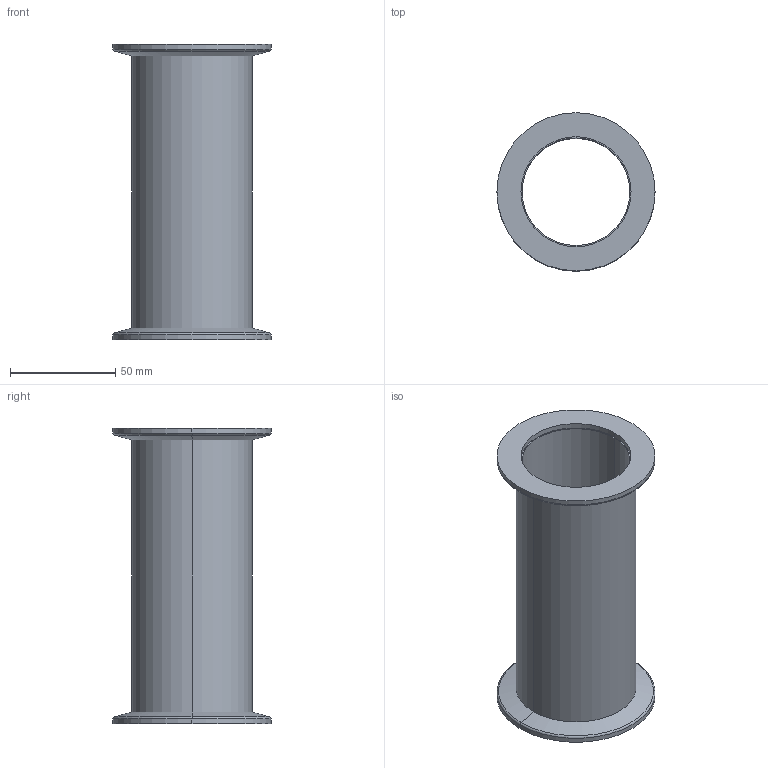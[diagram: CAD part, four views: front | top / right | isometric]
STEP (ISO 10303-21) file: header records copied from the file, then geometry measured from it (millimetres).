
FILE_DESCRIPTION (( 'STEP AP214' ), '1' );
FILE_NAME ('W3ZS50.STEP', '2019-11-29T07:48:29', ( '' ), ( '' ), 'SwSTEP 2.0', 'SolidWorks 2018', '' );
FILE_SCHEMA (( 'AUTOMOTIVE_DESIGN' ));
Length unit declared in the file: millimetre
Products named in the file (1): W3ZS50
Bounding box: 75 x 75 x 140 mm (x, y, z)
Volume: 86204.3 mm3; surface area: 55502.2 mm2
Topology: 1 solids, 1 shells, 24 faces, 48 edges, 28 vertices
Faces by surface type: cylinder 12, torus 4, cone 4, plane 4
Entity records: 666 total; most frequent: DIRECTION 130, CARTESIAN_POINT 101, ORIENTED_EDGE 96, AXIS2_PLACEMENT_3D 57, EDGE_CURVE 48, CIRCLE 32, VERTEX_POINT 28, EDGE_LOOP 28
